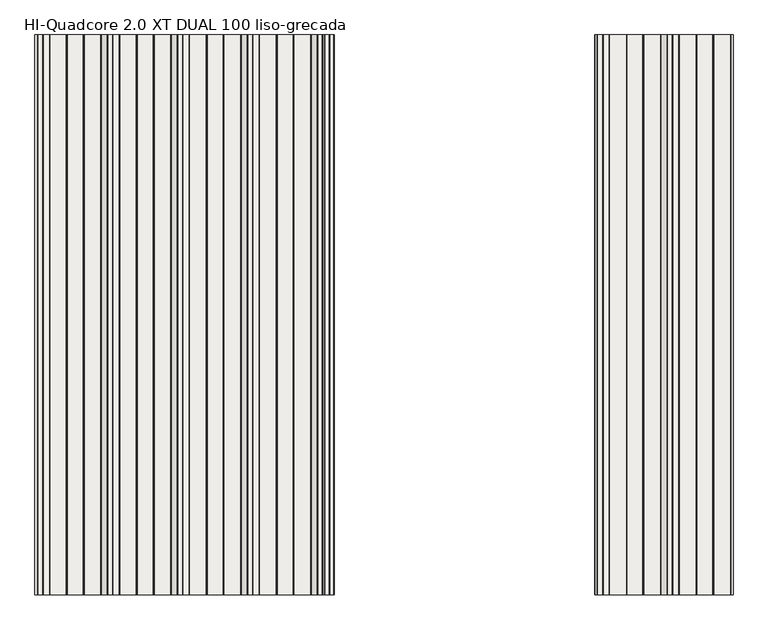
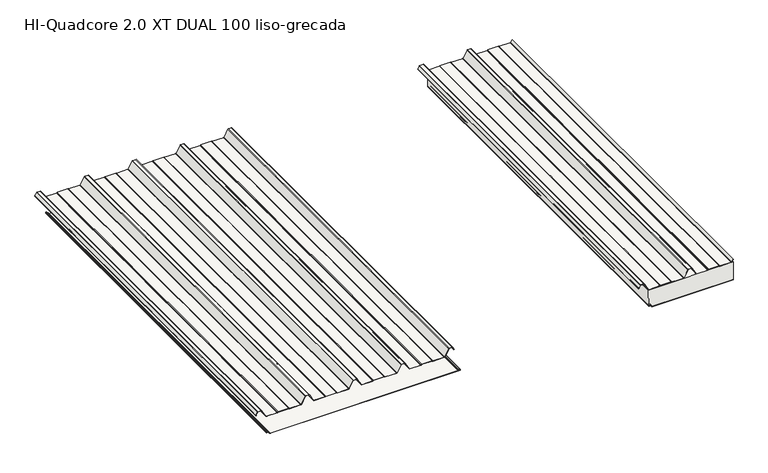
"""IFC4 building model written with IfcOpenShell, lengths in millimetres: slab geometry, HI_QuadCore2.0XT-XT DUAL : HI-Quadcore 2.0 XT DUAL 100 liso-grecada."""

from ifc_helpers import new_model, si_unit, point, frame, frame_2d, origin, place, context, project, spatial, polyline, circle_curve, trimmed, segment, composite_curve, outline, extrude, source, transform, mapped, element, save
from ifc_brep_helpers import plane_surface, cylinder_surface, revolved_surface, advanced_brep


def hi_quadcore_2_0_xt_dual_100_liso_grecada_713d99ed(model_context):
    return source(origin(), model_context, "Body", "SolidModel", [
        extrude(outline(composite_curve([segment(polyline([(138.1649405, 2138.5141429), (123.6579587, 2130.3539656)]), True, "CONTINUOUS"), segment(trimmed(circle_curve(frame_2d((123.0451321, 2131.443435)), 1.25), [point((123.6579587, 2130.3539656))], [point((122.689225, 2132.6416963))], False, "CARTESIAN"), True, "CONTINUOUS"), segment(polyline([(122.689225, 2132.6416963), (125.7359115, 2133.437141), (125.9380053, 2132.663088), (122.9074492, 2131.8718547)]), True, "CONTINUOUS"), segment(trimmed(circle_curve(frame_2d((123.0451321, 2131.443435)), 0.45), [point((122.9074492, 2131.8718547))], [point((123.2657497, 2131.051226))], True, "CARTESIAN"), True, "CONTINUOUS"), segment(polyline([(123.2657497, 2131.051226), (137.7727315, 2139.2114033)]), True, "CONTINUOUS"), segment(trimmed(circle_curve(frame_2d((136.4, 2141.6518148)), 2.8), [point((137.7727315, 2139.2114033))], [point((139.2, 2141.6518148))], True, "CARTESIAN"), True, "CONTINUOUS"), segment(polyline([(139.2, 2141.6518148), (139.2, 2158.9311117)]), True, "CONTINUOUS"), segment(trimmed(circle_curve(frame_2d((136.4, 2158.9311117)), 2.8), [point((139.2, 2158.9311117))], [point((137.5457267, 2161.4859719))], True, "CARTESIAN"), True, "CONTINUOUS"), segment(polyline([(137.5457267, 2161.4859719), (101.2048889, 2181.3052775)]), True, "CONTINUOUS"), segment(trimmed(circle_curve(frame_2d((103.0, 2184.6545425)), 3.8), [point((101.2048889, 2181.3052775))], [point((99.2, 2184.6545425))], False, "CARTESIAN"), True, "CONTINUOUS"), segment(polyline([(99.2, 2184.6545425), (99.2, 2242.4489557)]), True, "CONTINUOUS"), segment(trimmed(circle_curve(frame_2d((103.0, 2242.4489557)), 3.8), [point((99.2, 2242.4489557))], [point((99.6973596, 2244.328468))], False, "CARTESIAN"), True, "CONTINUOUS"), segment(polyline([(99.6973596, 2244.328468), (100.912055, 2246.4629056)]), True, "CONTINUOUS"), segment(trimmed(circle_curve(frame_2d((99.0, 2247.5510443)), 2.2), [point((100.912055, 2246.4629056))], [point((101.2, 2247.5510443))], True, "CARTESIAN"), True, "CONTINUOUS"), segment(polyline([(101.2, 2247.5510443), (101.2, 2302.4489557)]), True, "CONTINUOUS"), segment(trimmed(circle_curve(frame_2d((99.0, 2302.4489557)), 2.2), [point((101.2, 2302.4489557))], [point((100.912055, 2303.5370944))], True, "CARTESIAN"), True, "CONTINUOUS"), segment(polyline([(100.912055, 2303.5370944), (99.6973596, 2305.671532)]), True, "CONTINUOUS"), segment(trimmed(circle_curve(frame_2d((103.0, 2307.5510443)), 3.8), [point((99.6973596, 2305.671532))], [point((99.2, 2307.5510443))], False, "CARTESIAN"), True, "CONTINUOUS"), segment(polyline([(99.2, 2307.5510443), (99.2, 2365.7454575)]), True, "CONTINUOUS"), segment(trimmed(circle_curve(frame_2d((103.0, 2365.7454575)), 3.8), [point((99.2, 2365.7454575))], [point((101.1370073, 2369.0574446))], False, "CARTESIAN"), True, "CONTINUOUS"), segment(polyline([(101.1370073, 2369.0574446), (138.0785747, 2389.8370763)]), True, "CONTINUOUS"), segment(trimmed(circle_curve(frame_2d((137.0, 2391.7545425)), 2.2), [point((138.0785747, 2389.8370763))], [point((139.2, 2391.7545425))], True, "CARTESIAN"), True, "CONTINUOUS"), segment(polyline([(139.2, 2391.7545425), (139.2, 2408.2454575)]), True, "CONTINUOUS"), segment(trimmed(circle_curve(frame_2d((137.0, 2408.2454575)), 2.2), [point((139.2, 2408.2454575))], [point((138.0785747, 2410.1629237))], True, "CARTESIAN"), True, "CONTINUOUS"), segment(polyline([(138.0785747, 2410.1629237), (101.1370073, 2430.9425554)]), True, "CONTINUOUS"), segment(trimmed(circle_curve(frame_2d((103.0, 2434.2545425)), 3.8), [point((101.1370073, 2430.9425554))], [point((99.2, 2434.2545425))], False, "CARTESIAN"), True, "CONTINUOUS"), segment(polyline([(99.2, 2434.2545425), (99.2, 2492.4489557)]), True, "CONTINUOUS"), segment(trimmed(circle_curve(frame_2d((103.0, 2492.4489557)), 3.8), [point((99.2, 2492.4489557))], [point((99.6973596, 2494.328468))], False, "CARTESIAN"), True, "CONTINUOUS"), segment(polyline([(99.6973596, 2494.328468), (100.912055, 2496.4629056)]), True, "CONTINUOUS"), segment(trimmed(circle_curve(frame_2d((99.0, 2497.5510443)), 2.2), [point((100.912055, 2496.4629056))], [point((101.2, 2497.5510443))], True, "CARTESIAN"), True, "CONTINUOUS"), segment(polyline([(101.2, 2497.5510443), (101.2, 2552.4489557)]), True, "CONTINUOUS"), segment(trimmed(circle_curve(frame_2d((99.0, 2552.4489557)), 2.2), [point((101.2, 2552.4489557))], [point((100.912055, 2553.5370944))], True, "CARTESIAN"), True, "CONTINUOUS"), segment(polyline([(100.912055, 2553.5370944), (99.6973596, 2555.671532)]), True, "CONTINUOUS"), segment(trimmed(circle_curve(frame_2d((103.0, 2557.5510443)), 3.8), [point((99.6973596, 2555.671532))], [point((99.2, 2557.5510443))], False, "CARTESIAN"), True, "CONTINUOUS"), segment(polyline([(99.2, 2557.5510443), (99.2, 2615.7454575)]), True, "CONTINUOUS"), segment(trimmed(circle_curve(frame_2d((103.0, 2615.7454575)), 3.8), [point((99.2, 2615.7454575))], [point((101.1370073, 2619.0574446))], False, "CARTESIAN"), True, "CONTINUOUS"), segment(polyline([(101.1370073, 2619.0574446), (111.582282, 2624.9329116), (113.214065, 2624.9329116), (101.5292163, 2618.3601842)]), True, "CONTINUOUS"), segment(trimmed(circle_curve(frame_2d((103.0, 2615.7454575)), 3.0), [point((101.5292163, 2618.3601842))], [point((100.0, 2615.7454575))], True, "CARTESIAN"), True, "CONTINUOUS"), segment(polyline([(100.0, 2615.7454575), (100.0, 2557.5510443)]), True, "CONTINUOUS"), segment(trimmed(circle_curve(frame_2d((103.0, 2557.5510443)), 3.0), [point((100.0, 2557.5510443))], [point((100.3926523, 2556.0672188))], True, "CARTESIAN"), True, "CONTINUOUS"), segment(polyline([(100.3926523, 2556.0672188), (101.6073477, 2553.9327812)]), True, "CONTINUOUS"), segment(trimmed(circle_curve(frame_2d((99.0, 2552.4489557)), 3.0), [point((101.6073477, 2553.9327812))], [point((102.0, 2552.4489557))], False, "CARTESIAN"), True, "CONTINUOUS"), segment(polyline([(102.0, 2552.4489557), (102.0, 2497.5510443)]), True, "CONTINUOUS"), segment(trimmed(circle_curve(frame_2d((99.0, 2497.5510443)), 3.0), [point((102.0, 2497.5510443))], [point((101.6073477, 2496.0672188))], False, "CARTESIAN"), True, "CONTINUOUS"), segment(polyline([(101.6073477, 2496.0672188), (100.3926523, 2493.9327812)]), True, "CONTINUOUS"), segment(trimmed(circle_curve(frame_2d((103.0, 2492.4489557)), 3.0), [point((100.3926523, 2493.9327812))], [point((100.0, 2492.4489557))], True, "CARTESIAN"), True, "CONTINUOUS"), segment(polyline([(100.0, 2492.4489557), (100.0, 2434.2545425)]), True, "CONTINUOUS"), segment(trimmed(circle_curve(frame_2d((103.0, 2434.2545425)), 3.0), [point((100.0, 2434.2545425))], [point((101.5292163, 2431.6398158))], True, "CARTESIAN"), True, "CONTINUOUS"), segment(polyline([(101.5292163, 2431.6398158), (138.4707837, 2410.8601842)]), True, "CONTINUOUS"), segment(trimmed(circle_curve(frame_2d((137.0, 2408.2454575)), 3.0), [point((138.4707837, 2410.8601842))], [point((140.0, 2408.2454575))], False, "CARTESIAN"), True, "CONTINUOUS"), segment(polyline([(140.0, 2408.2454575), (140.0, 2391.7545425)]), True, "CONTINUOUS"), segment(trimmed(circle_curve(frame_2d((137.0, 2391.7545425)), 3.0), [point((140.0, 2391.7545425))], [point((138.4707837, 2389.1398158))], False, "CARTESIAN"), True, "CONTINUOUS"), segment(polyline([(138.4707837, 2389.1398158), (101.5292163, 2368.3601842)]), True, "CONTINUOUS"), segment(trimmed(circle_curve(frame_2d((103.0, 2365.7454575)), 3.0), [point((101.5292163, 2368.3601842))], [point((100.0, 2365.7454575))], True, "CARTESIAN"), True, "CONTINUOUS"), segment(polyline([(100.0, 2365.7454575), (100.0, 2307.5510443)]), True, "CONTINUOUS"), segment(trimmed(circle_curve(frame_2d((103.0, 2307.5510443)), 3.0), [point((100.0, 2307.5510443))], [point((100.3926523, 2306.0672188))], True, "CARTESIAN"), True, "CONTINUOUS"), segment(polyline([(100.3926523, 2306.0672188), (101.6073477, 2303.9327812)]), True, "CONTINUOUS"), segment(trimmed(circle_curve(frame_2d((99.0, 2302.4489557)), 3.0), [point((101.6073477, 2303.9327812))], [point((102.0, 2302.4489557))], False, "CARTESIAN"), True, "CONTINUOUS"), segment(polyline([(102.0, 2302.4489557), (102.0, 2247.5510443)]), True, "CONTINUOUS"), segment(trimmed(circle_curve(frame_2d((99.0, 2247.5510443)), 3.0), [point((102.0, 2247.5510443))], [point((101.6073477, 2246.0672188))], False, "CARTESIAN"), True, "CONTINUOUS"), segment(polyline([(101.6073477, 2246.0672188), (100.3926523, 2243.9327812)]), True, "CONTINUOUS"), segment(trimmed(circle_curve(frame_2d((103.0, 2242.4489557)), 3.0), [point((100.3926523, 2243.9327812))], [point((100.0, 2242.4489557))], True, "CARTESIAN"), True, "CONTINUOUS"), segment(polyline([(100.0, 2242.4489557), (100.0, 2184.6545425)]), True, "CONTINUOUS"), segment(trimmed(circle_curve(frame_2d((103.0, 2184.6545425)), 3.0), [point((100.0, 2184.6545425))], [point((101.5852209, 2182.0090935))], True, "CARTESIAN"), True, "CONTINUOUS"), segment(polyline([(101.5852209, 2182.0090935), (137.9031732, 2162.2022691)]), True, "CONTINUOUS"), segment(trimmed(circle_curve(frame_2d((136.4, 2158.9311117)), 3.6), [point((137.9031732, 2162.2022691))], [point((140.0, 2158.9311117))], False, "CARTESIAN"), True, "CONTINUOUS"), segment(polyline([(140.0, 2158.9311117), (140.0, 2141.6518148)]), True, "CONTINUOUS"), segment(trimmed(circle_curve(frame_2d((136.4, 2141.6518148)), 3.6), [point((140.0, 2141.6518148))], [point((138.1649405, 2138.5141429))], False, "CARTESIAN"), True, "CONTINUOUS")], self_intersect=False)), frame((0.0, 0.0, 0.0), z_axis=(0.0, 1.0, 0.0), x_axis=(0.0, 0.0, 1.0)), (0.0, 0.0, 1.0), 2000.0),
        extrude(outline(composite_curve([segment(trimmed(circle_curve(frame_2d((11.9759207, 2187.8456418)), 2.0), [point((13.390095, 2186.4313891))], [point((11.9758652, 2185.8456418))], False, "CARTESIAN"), True, "CONTINUOUS"), segment(polyline([(11.9758652, 2185.8456418), (8.333684, 2185.8457428)]), True, "CONTINUOUS"), segment(trimmed(circle_curve(frame_2d((8.3337394, 2187.8457428)), 2.0), [point((8.333684, 2185.8457428))], [point((6.3390802, 2187.6996787))], False, "CARTESIAN"), True, "CONTINUOUS"), segment(polyline([(6.3390802, 2187.6996787), (5.5769243, 2198.1077232)]), True, "CONTINUOUS"), segment(trimmed(circle_curve(frame_2d((3.5874027, 2197.9032632)), 2.0), [point((5.5769243, 2198.1077232))], [point((3.5874582, 2199.9032632))], True, "CARTESIAN"), True, "CONTINUOUS"), segment(polyline([(3.5874582, 2199.9032632), (1.9861383, 2199.9033076)]), True, "CONTINUOUS"), segment(trimmed(circle_curve(frame_2d((1.9861938, 2201.9033076)), 2.0), [point((1.9861383, 2199.9033076))], [point((-0.0138062, 2201.903363))], False, "CARTESIAN"), True, "CONTINUOUS"), segment(polyline([(-0.0138062, 2201.903363), (-0.0020786, 2624.9329116), (0.7979214, 2624.9329116), (0.7861938, 2201.9033408)]), True, "CONTINUOUS"), segment(trimmed(circle_curve(frame_2d((1.9861938, 2201.9033076)), 1.2), [point((0.7861938, 2201.9033408))], [point((1.9861605, 2200.7033076))], True, "CARTESIAN"), True, "CONTINUOUS"), segment(polyline([(1.9861605, 2200.7033076), (3.5874804, 2200.7032632)]), True, "CONTINUOUS"), segment(trimmed(circle_curve(frame_2d((3.5874027, 2197.9032632)), 2.8), [point((3.5874804, 2200.7032632))], [point((6.3740035, 2198.1768616))], False, "CARTESIAN"), True, "CONTINUOUS"), segment(polyline([(6.3740035, 2198.1768616), (7.1369439, 2187.7581044)]), True, "CONTINUOUS"), segment(trimmed(circle_curve(frame_2d((8.3337394, 2187.8457428)), 1.2), [point((7.1369439, 2187.7581044))], [point((8.3337062, 2186.6457428))], True, "CARTESIAN"), True, "CONTINUOUS"), segment(polyline([(8.3337062, 2186.6457428), (11.9758874, 2186.6456418)]), True, "CONTINUOUS"), segment(trimmed(circle_curve(frame_2d((11.9759207, 2187.8456418)), 1.2), [point((11.9758874, 2186.6456418))], [point((12.8244253, 2186.9970902))], True, "CARTESIAN"), True, "CONTINUOUS"), segment(polyline([(12.8244253, 2186.9970902), (14.9306702, 2189.1032183), (15.4963556, 2188.5375329), (13.390095, 2186.4313891)]), True, "CONTINUOUS")], self_intersect=False)), frame((0.0, 0.0, 0.0), z_axis=(0.0, 1.0, 0.0), x_axis=(0.0, 0.0, 1.0)), (0.0, 0.0, 1.0), 2000.0),
        extrude(outline(composite_curve([segment(polyline([(14.9306702, 2189.1032183), (12.8244253, 2186.9970902)]), True, "CONTINUOUS"), segment(trimmed(circle_curve(frame_2d((11.9759207, 2187.8456418)), 1.2), [point((12.8244253, 2186.9970902))], [point((11.9758874, 2186.6456418))], False, "CARTESIAN"), True, "CONTINUOUS"), segment(polyline([(11.9758874, 2186.6456418), (8.3337062, 2186.6457428)]), True, "CONTINUOUS"), segment(trimmed(circle_curve(frame_2d((8.3337394, 2187.8457428)), 1.2), [point((8.3337062, 2186.6457428))], [point((7.1369439, 2187.7581044))], False, "CARTESIAN"), True, "CONTINUOUS"), segment(polyline([(7.1369439, 2187.7581044), (6.3740035, 2198.1768616)]), True, "CONTINUOUS"), segment(trimmed(circle_curve(frame_2d((3.5874027, 2197.9032632)), 2.8), [point((6.3740035, 2198.1768616))], [point((3.5874804, 2200.7032632))], True, "CARTESIAN"), True, "CONTINUOUS"), segment(polyline([(3.5874804, 2200.7032632), (1.9861605, 2200.7033076)]), True, "CONTINUOUS"), segment(trimmed(circle_curve(frame_2d((1.9861938, 2201.9033076)), 1.2), [point((1.9861605, 2200.7033076))], [point((0.7861938, 2201.9033408))], False, "CARTESIAN"), True, "CONTINUOUS"), segment(polyline([(0.7861938, 2201.9033408), (0.7979214, 2624.9329116), (98.0, 2624.9329116), (98.0, 2181.4127132), (7.0308356, 2184.4622222), (7.2414508, 2185.8457731), (11.9758652, 2185.8456418)]), True, "CONTINUOUS"), segment(trimmed(circle_curve(frame_2d((11.9759207, 2187.8456418)), 2.0), [point((11.9758652, 2185.8456418))], [point((13.390095, 2186.4313891))], True, "CARTESIAN"), True, "CONTINUOUS"), segment(polyline([(13.390095, 2186.4313891), (15.4963556, 2188.5375329), (14.9306702, 2189.1032183)]), True, "CONTINUOUS")], self_intersect=False)), frame((0.0, 0.0, 0.0), z_axis=(0.0, 1.0, 0.0), x_axis=(0.0, 0.0, 1.0)), (0.0, 0.0, 1.0), 2000.0),
        advanced_brep(
        [(186.4313891, 0.0, 13.3795578), (185.8456418, 0.0, 11.9654043), (185.8456037, 0.0, 8.2995811), (187.6996787, 0.0, 6.328543), (198.1077232, 0.0, 5.5663871), (199.9032632, 0.0, 3.5769209), (199.9033076, 0.0, 1.9756011), (201.903363, 0.0, -0.0243435), (1197.9162803, 0.0, 0.003269), (1199.9046779, 0.0, 2.0032908), (1199.904653, 0.0, 2.9012893), (1198.0077486, 0.0, 4.8985749), (1186.1928118, 0.0, 5.7933732), (1184.3438482, 0.0, 7.7876066), (1184.3437386, 0.0, 11.7402379), (1183.757913, 0.0, 13.1544352), (1182.3436602, 0.0, 14.5686095), (1181.7779748, 0.0, 14.0029241), (1183.1922433, 0.0, 12.5887341), (1183.5437386, 0.0, 11.7402157), (1183.5438482, 0.0, 7.7875844), (1186.1323972, 0.0, 4.9956577), (1197.958132, 0.0, 4.1000416), (1199.104653, 0.0, 2.9012672), (1199.1046779, 0.0, 2.0032686), (1197.9136554, 0.0, 0.8032689), (201.9033408, 0.0, 0.7756565), (200.7033076, 0.0, 1.9756233), (200.7032632, 0.0, 3.5769431), (198.1768616, 0.0, 6.3634663), (187.7581044, 0.0, 7.1264067), (186.6457428, 0.0, 8.3231689), (186.6456418, 0.0, 11.965396), (186.9970902, 0.0, 12.8138881), (189.1032183, 0.0, 14.920133), (188.5375329, 0.0, 15.4858184), (186.4313891, 2000.0, 13.3795578), (188.5375329, 2000.0, 15.4858184), (189.1032183, 2000.0, 14.920133), (186.9970902, 2000.0, 12.8138881), (186.6456418, 2000.0, 11.965396), (186.6456037, 2000.0, 8.2995728), (187.7581044, 2000.0, 7.1264067), (198.1768616, 2000.0, 6.3634663), (200.7032632, 2000.0, 3.5769431), (200.7033076, 2000.0, 1.9756233), (201.9033408, 2000.0, 0.7756565), (1197.9136554, 2000.0, 0.8032689), (1199.1046779, 2000.0, 2.0032686), (1199.104653, 2000.0, 2.9012672), (1197.958132, 2000.0, 4.1000416), (1186.1323972, 2000.0, 4.9956577), (1183.5438482, 2000.0, 7.7875844), (1183.5437386, 2000.0, 11.7402157), (1183.1922433, 2000.0, 12.5887341), (1181.7779748, 2000.0, 14.0029241), (1182.3436602, 2000.0, 14.5686095), (1183.757913, 2000.0, 13.1544352), (1184.3437386, 2000.0, 11.7402379), (1184.3438482, 2000.0, 7.7876066), (1186.1928118, 2000.0, 5.7933732), (1198.0077486, 2000.0, 4.8985749), (1199.904653, 2000.0, 2.9012893), (1199.9046779, 2000.0, 2.0032908), (1197.9162803, 2000.0, 0.003269), (201.903363, 2000.0, -0.0243435), (199.9033076, 2000.0, 1.9756011), (199.9032632, 2000.0, 3.5769209), (198.1077232, 2000.0, 5.5663871), (187.6996787, 2000.0, 6.328543), (185.8457428, 2000.0, 8.3231467), (185.8456418, 2000.0, 11.9654043)],
        [
            (0, 1, circle_curve(frame((187.8456418, 0.0, 11.9653834), z_axis=(0.0, -1.0, 0.0), x_axis=(1.0, 0.0, 0.0)), 2.0)),
            (1, 2),
            (2, 3, circle_curve(frame((187.8457428, 0.0, 8.3232022), z_axis=(0.0, -1.0, 0.0), x_axis=(1.0, 0.0, 0.0)), 2.0)),
            (3, 4),
            (4, 5, circle_curve(frame((197.9032632, 0.0, 3.5768655), z_axis=(0.0, 1.0, 0.0), x_axis=(1.0, 0.0, 0.0)), 2.0)),
            (5, 6),
            (6, 7, circle_curve(frame((201.9033076, 0.0, 1.9756565), z_axis=(0.0, -1.0, 0.0), x_axis=(1.0, 0.0, 0.0)), 2.0)),
            (7, 8),
            (8, 9, circle_curve(frame((1197.9046779, 0.0, 2.0032353), z_axis=(0.0, -1.0, 0.0), x_axis=(1.0, 0.0, 0.0)), 2.0)),
            (9, 10),
            (10, 11, circle_curve(frame((1197.904653, 0.0, 2.9012339), z_axis=(0.0, -1.0, 0.0), x_axis=(1.0, 0.0, 0.0)), 2.0)),
            (11, 12),
            (12, 13, circle_curve(frame((1186.3438482, 0.0, 7.7876621), z_axis=(0.0, 1.0, 0.0), x_axis=(1.0, 0.0, 0.0)), 2.0)),
            (13, 14),
            (14, 15, circle_curve(frame((1182.3437386, 0.0, 11.7401824), z_axis=(0.0, -1.0, 0.0), x_axis=(1.0, 0.0, 0.0)), 2.0)),
            (15, 16),
            (16, 17),
            (17, 18),
            (18, 19, circle_curve(frame((1182.3437386, 0.0, 11.7401824), z_axis=(0.0, 1.0, 0.0), x_axis=(1.0, 0.0, 0.0)), 1.2)),
            (19, 20),
            (20, 21, circle_curve(frame((1186.3438482, 0.0, 7.7876621), z_axis=(0.0, -1.0, 0.0), x_axis=(1.0, 0.0, 0.0)), 2.8)),
            (21, 22),
            (22, 23, circle_curve(frame((1197.904653, 0.0, 2.9012339), z_axis=(0.0, 1.0, 0.0), x_axis=(1.0, 0.0, 0.0)), 1.2)),
            (23, 24),
            (24, 25, circle_curve(frame((1197.9046779, 0.0, 2.0032353), z_axis=(0.0, 1.0, 0.0), x_axis=(1.0, 0.0, 0.0)), 1.2)),
            (25, 26),
            (26, 27, circle_curve(frame((201.9033076, 0.0, 1.9756565), z_axis=(0.0, 1.0, 0.0), x_axis=(1.0, 0.0, 0.0)), 1.2)),
            (27, 28),
            (28, 29, circle_curve(frame((197.9032632, 0.0, 3.5768655), z_axis=(0.0, -1.0, 0.0), x_axis=(1.0, 0.0, 0.0)), 2.8)),
            (29, 30),
            (30, 31, circle_curve(frame((187.8457428, 0.0, 8.3232022), z_axis=(0.0, 1.0, 0.0), x_axis=(1.0, 0.0, 0.0)), 1.2)),
            (31, 32),
            (32, 33, circle_curve(frame((187.8456418, 0.0, 11.9653834), z_axis=(0.0, 1.0, 0.0), x_axis=(1.0, 0.0, 0.0)), 1.2)),
            (33, 34),
            (34, 35),
            (35, 0),
            (36, 37),
            (37, 38),
            (38, 39),
            (39, 40, circle_curve(frame((187.8456418, 2000.0, 11.9653834), z_axis=(0.0, -1.0, 0.0), x_axis=(1.0, 0.0, 0.0)), 1.2)),
            (40, 41),
            (41, 42, circle_curve(frame((187.8457428, 2000.0, 8.3232022), z_axis=(0.0, -1.0, 0.0), x_axis=(1.0, 0.0, 0.0)), 1.2)),
            (42, 43),
            (43, 44, circle_curve(frame((197.9032632, 2000.0, 3.5768655), z_axis=(0.0, 1.0, 0.0), x_axis=(1.0, 0.0, 0.0)), 2.8)),
            (44, 45),
            (45, 46, circle_curve(frame((201.9033076, 2000.0, 1.9756565), z_axis=(0.0, -1.0, 0.0), x_axis=(1.0, 0.0, 0.0)), 1.2)),
            (46, 47),
            (47, 48, circle_curve(frame((1197.9046779, 2000.0, 2.0032353), z_axis=(0.0, -1.0, 0.0), x_axis=(1.0, 0.0, 0.0)), 1.2)),
            (48, 49),
            (49, 50, circle_curve(frame((1197.904653, 2000.0, 2.9012339), z_axis=(0.0, -1.0, 0.0), x_axis=(1.0, 0.0, 0.0)), 1.2)),
            (50, 51),
            (51, 52, circle_curve(frame((1186.3438482, 2000.0, 7.7876621), z_axis=(0.0, 1.0, 0.0), x_axis=(1.0, 0.0, 0.0)), 2.8)),
            (52, 53),
            (53, 54, circle_curve(frame((1182.3437386, 2000.0, 11.7401824), z_axis=(0.0, -1.0, 0.0), x_axis=(1.0, 0.0, 0.0)), 1.2)),
            (54, 55),
            (55, 56),
            (56, 57),
            (57, 58, circle_curve(frame((1182.3437386, 2000.0, 11.7401824), z_axis=(0.0, 1.0, 0.0), x_axis=(1.0, 0.0, 0.0)), 2.0)),
            (58, 59),
            (59, 60, circle_curve(frame((1186.3438482, 2000.0, 7.7876621), z_axis=(0.0, -1.0, 0.0), x_axis=(1.0, 0.0, 0.0)), 2.0)),
            (60, 61),
            (61, 62, circle_curve(frame((1197.904653, 2000.0, 2.9012339), z_axis=(0.0, 1.0, 0.0), x_axis=(1.0, 0.0, 0.0)), 2.0)),
            (62, 63),
            (63, 64, circle_curve(frame((1197.9046779, 2000.0, 2.0032353), z_axis=(0.0, 1.0, 0.0), x_axis=(1.0, 0.0, 0.0)), 2.0)),
            (64, 65),
            (65, 66, circle_curve(frame((201.9033076, 2000.0, 1.9756565), z_axis=(0.0, 1.0, 0.0), x_axis=(1.0, 0.0, 0.0)), 2.0)),
            (66, 67),
            (67, 68, circle_curve(frame((197.9032632, 2000.0, 3.5768655), z_axis=(0.0, -1.0, 0.0), x_axis=(1.0, 0.0, 0.0)), 2.0)),
            (68, 69),
            (69, 70, circle_curve(frame((187.8457428, 2000.0, 8.3232022), z_axis=(0.0, 1.0, 0.0), x_axis=(1.0, 0.0, 0.0)), 2.0)),
            (70, 71),
            (71, 36, circle_curve(frame((187.8456418, 2000.0, 11.9653834), z_axis=(0.0, 1.0, 0.0), x_axis=(1.0, 0.0, 0.0)), 2.0)),
            (0, 36),
            (71, 1),
            (70, 2),
            (69, 3),
            (68, 4),
            (67, 5),
            (66, 6),
            (65, 7),
            (64, 8),
            (63, 9),
            (62, 10),
            (61, 11),
            (60, 12),
            (59, 13),
            (58, 14),
            (57, 15),
            (56, 16),
            (55, 17),
            (54, 18),
            (53, 19),
            (52, 20),
            (51, 21),
            (50, 22),
            (49, 23),
            (48, 24),
            (47, 25),
            (46, 26),
            (45, 27),
            (44, 28),
            (43, 29),
            (42, 30),
            (41, 31),
            (40, 32),
            (39, 33),
            (38, 34),
            (37, 35),
        ],
        [
            plane_surface(frame((189.8456418, 0.0, 11.9653834), z_axis=(0.0, -1.0, 0.0), x_axis=(0.0, 0.0, 1.0))),
            plane_surface(frame((189.8456418, 2000.0, 11.9653834), z_axis=(0.0, 1.0, 0.0), x_axis=(0.0, 0.0, -1.0))),
            cylinder_surface(frame((187.8456418, 2000.0, 11.9653834), z_axis=(0.0, -1.0, 0.0), x_axis=(1.0, 0.0, 0.0)), 2.0),
            plane_surface(frame((185.8456418, 0.0, 11.9654043), z_axis=(-0.9999999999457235, 0.0, 1.041887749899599e-05), x_axis=(0.0, 1.0, 0.0))),
            cylinder_surface(frame((187.8457428, 2000.0, 8.3232022), z_axis=(0.0, -1.0, 0.0), x_axis=(1.0, 0.0, 0.0)), 2.0),
            plane_surface(frame((187.6996787, 0.0, 6.328543), z_axis=(-0.07303203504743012, 0.0, -0.9973295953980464), x_axis=(0.0, 1.0, 0.0))),
            revolved_surface(polyline([(199.9032632, 2000.0, 3.5768655), (199.9032632, 0.0, 3.5768655)]), (197.9032632, 2000.0, 3.5768655), (0.0, 1.0, 0.0)),
            plane_surface(frame((199.9032632, 0.0, 3.5769209), z_axis=(-0.9999999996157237, 0.0, -2.7722781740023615e-05), x_axis=(0.0, 1.0, 0.0))),
            cylinder_surface(frame((201.9033076, 2000.0, 1.9756565), z_axis=(0.0, -1.0, 0.0), x_axis=(1.0, 0.0, 0.0)), 2.0),
            plane_surface(frame((201.903363, 0.0, -0.0243435), z_axis=(2.772298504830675e-05, 0.0, -0.9999999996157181), x_axis=(0.0, 1.0, 0.0))),
            cylinder_surface(frame((1197.9046779, 2000.0, 2.0032353), z_axis=(0.0, -1.0, 0.0), x_axis=(1.0, 0.0, 0.0)), 2.0),
            plane_surface(frame((1199.9046779, 0.0, 2.0032908), z_axis=(0.9999999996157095, 0.0, 2.7723295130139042e-05), x_axis=(0.0, 1.0, 0.0))),
            cylinder_surface(frame((1197.904653, 2000.0, 2.9012339), z_axis=(0.0, -1.0, 0.0), x_axis=(1.0, 0.0, 0.0)), 2.0),
            plane_surface(frame((1198.0077486, 0.0, 4.8985749), z_axis=(0.07551822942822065, 0.0, 0.9971444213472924), x_axis=(0.0, 1.0, 0.0))),
            revolved_surface(polyline([(1188.3438482, 2000.0, 7.7876621), (1188.3438482, 0.0, 7.7876621)]), (1186.3438482, 2000.0, 7.7876621), (0.0, 1.0, 0.0)),
            plane_surface(frame((1184.3438482, 0.0, 7.7876066), z_axis=(0.9999999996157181, 0.0, 2.7722984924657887e-05), x_axis=(0.0, 1.0, 0.0))),
            cylinder_surface(frame((1182.3437386, 2000.0, 11.7401824), z_axis=(0.0, -1.0, 0.0), x_axis=(1.0, 0.0, 0.0)), 2.0),
            plane_surface(frame((1183.757913, 0.0, 13.1544352), z_axis=(0.7070871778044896, 0.0, 0.7071263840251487), x_axis=(0.0, 1.0, 0.0))),
            plane_surface(frame((1182.3436602, 0.0, 14.5686095), z_axis=(-0.7071067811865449, 0.0, 0.7071067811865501), x_axis=(0.0, 1.0, 0.0))),
            plane_surface(frame((1181.7779748, 0.0, 14.0029241), z_axis=(-0.7070871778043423, 0.0, -0.707126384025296), x_axis=(0.0, 1.0, 0.0))),
            revolved_surface(polyline([(1183.5437386, 2000.0, 11.7401824), (1183.5437386, 0.0, 11.7401824)]), (1182.3437386, 2000.0, 11.7401824), (0.0, 1.0, 0.0)),
            plane_surface(frame((1183.5437386, 0.0, 11.7402157), z_axis=(-0.9999999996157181, 0.0, -2.7722985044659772e-05), x_axis=(0.0, 1.0, 0.0))),
            cylinder_surface(frame((1186.3438482, 2000.0, 7.7876621), z_axis=(0.0, -1.0, 0.0), x_axis=(1.0, 0.0, 0.0)), 2.8),
            plane_surface(frame((1186.1323972, 0.0, 4.9956577), z_axis=(-0.07551822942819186, 0.0, -0.9971444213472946), x_axis=(0.0, 1.0, 0.0))),
            revolved_surface(polyline([(1199.104653, 2000.0, 2.9012339), (1199.104653, 0.0, 2.9012339)]), (1197.904653, 2000.0, 2.9012339), (0.0, 1.0, 0.0)),
            plane_surface(frame((1199.104653, 0.0, 2.9012672), z_axis=(-0.9999999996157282, 0.0, -2.7722622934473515e-05), x_axis=(0.0, 1.0, 0.0))),
            revolved_surface(polyline([(1199.1046779, 2000.0, 2.0032353), (1199.1046779, 0.0, 2.0032353)]), (1197.9046779, 2000.0, 2.0032353), (0.0, 1.0, 0.0)),
            plane_surface(frame((1197.9136554, 0.0, 0.8032689), z_axis=(-2.7722985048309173e-05, 0.0, 0.9999999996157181), x_axis=(0.0, 1.0, 0.0))),
            revolved_surface(polyline([(203.1033076, 2000.0, 1.9756565), (203.1033076, 0.0, 1.9756565)]), (201.9033076, 2000.0, 1.9756565), (0.0, 1.0, 0.0)),
            plane_surface(frame((200.7033076, 0.0, 1.9756233), z_axis=(0.9999999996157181, 0.0, 2.7722983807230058e-05), x_axis=(0.0, 1.0, 0.0))),
            cylinder_surface(frame((197.9032632, 2000.0, 3.5768655), z_axis=(0.0, -1.0, 0.0), x_axis=(1.0, 0.0, 0.0)), 2.8),
            plane_surface(frame((198.1768616, 0.0, 6.3634663), z_axis=(0.0730320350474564, 0.0, 0.9973295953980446), x_axis=(0.0, 1.0, 0.0))),
            revolved_surface(polyline([(189.0457428, 2000.0, 8.3232022), (189.0457428, 0.0, 8.3232022)]), (187.8457428, 2000.0, 8.3232022), (0.0, 1.0, 0.0)),
            plane_surface(frame((186.6456037, 0.0, 8.2995728), z_axis=(0.9999999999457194, 0.0, -1.0419274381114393e-05), x_axis=(0.0, 1.0, 0.0))),
            revolved_surface(polyline([(189.0456418, 2000.0, 11.9653834), (189.0456418, 0.0, 11.9653834)]), (187.8456418, 2000.0, 11.9653834), (0.0, 1.0, 0.0)),
            plane_surface(frame((186.9970902, 0.0, 12.8138881), z_axis=(0.7071263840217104, 0.0, -0.7070871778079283), x_axis=(0.0, 1.0, 0.0))),
            plane_surface(frame((189.1032183, 0.0, 14.920133), z_axis=(0.7071067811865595, 0.0, 0.7071067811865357), x_axis=(0.0, 1.0, 0.0))),
            plane_surface(frame((188.5375329, 0.0, 15.4858184), z_axis=(-0.7071263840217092, 0.0, 0.7070871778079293), x_axis=(0.0, 1.0, 0.0))),
        ],
        [
            (0, [[1, 2, 3, 4, 5, 6, 7, 8, 9, 10, 11, 12, 13, 14, 15, 16, 17, 18, 19, 20, 21, 22, 23, 24, 25, 26, 27, 28, 29, 30, 31, 32, 33, 34, 35, 36]]),
            (1, [[37, 38, 39, 40, 41, 42, 43, 44, 45, 46, 47, 48, 49, 50, 51, 52, 53, 54, 55, 56, 57, 58, 59, 60, 61, 62, 63, 64, 65, 66, 67, 68, 69, 70, 71, 72]]),
            (2, [[-1, 73, -72, 74]]),
            (3, [[-2, -74, -71, 75]]),
            (4, [[-3, -75, -70, 76]]),
            (5, [[-4, -76, -69, 77]]),
            (6, [[-5, -77, -68, 78]]),
            (7, [[-6, -78, -67, 79]]),
            (8, [[-7, -79, -66, 80]]),
            (9, [[-8, -80, -65, 81]]),
            (10, [[-9, -81, -64, 82]]),
            (11, [[-10, -82, -63, 83]]),
            (12, [[-11, -83, -62, 84]]),
            (13, [[-12, -84, -61, 85]]),
            (14, [[-13, -85, -60, 86]]),
            (15, [[-14, -86, -59, 87]]),
            (16, [[-15, -87, -58, 88]]),
            (17, [[-16, -88, -57, 89]]),
            (18, [[-17, -89, -56, 90]]),
            (19, [[-18, -90, -55, 91]]),
            (20, [[-19, -91, -54, 92]]),
            (21, [[-20, -92, -53, 93]]),
            (22, [[-21, -93, -52, 94]]),
            (23, [[-22, -94, -51, 95]]),
            (24, [[-23, -95, -50, 96]]),
            (25, [[-24, -96, -49, 97]]),
            (26, [[-25, -97, -48, 98]]),
            (27, [[-26, -98, -47, 99]]),
            (28, [[-27, -99, -46, 100]]),
            (29, [[-28, -100, -45, 101]]),
            (30, [[-29, -101, -44, 102]]),
            (31, [[-30, -102, -43, 103]]),
            (32, [[-31, -103, -42, 104]]),
            (33, [[-32, -104, -41, 105]]),
            (34, [[-33, -105, -40, 106]]),
            (35, [[-34, -106, -39, 107]]),
            (36, [[-35, -107, -38, 108]]),
            (37, [[-36, -108, -37, -73]]),
        ],
    ),
        extrude(outline(composite_curve([segment(polyline([(138.1649405, 138.5141429), (123.6579587, 130.3539656)]), True, "CONTINUOUS"), segment(trimmed(circle_curve(frame_2d((123.0451321, 131.443435)), 1.25), [point((123.6579587, 130.3539656))], [point((122.689225, 132.6416963))], False, "CARTESIAN"), True, "CONTINUOUS"), segment(polyline([(122.689225, 132.6416963), (125.7359115, 133.437141), (125.9380053, 132.663088), (122.9074492, 131.8718547)]), True, "CONTINUOUS"), segment(trimmed(circle_curve(frame_2d((123.0451321, 131.443435)), 0.45), [point((122.9074492, 131.8718547))], [point((123.2657497, 131.051226))], True, "CARTESIAN"), True, "CONTINUOUS"), segment(polyline([(123.2657497, 131.051226), (137.7727315, 139.2114033)]), True, "CONTINUOUS"), segment(trimmed(circle_curve(frame_2d((136.4, 141.6518148)), 2.8), [point((137.7727315, 139.2114033))], [point((139.2, 141.6518148))], True, "CARTESIAN"), True, "CONTINUOUS"), segment(polyline([(139.2, 141.6518148), (139.2, 158.9311117)]), True, "CONTINUOUS"), segment(trimmed(circle_curve(frame_2d((136.4, 158.9311117)), 2.8), [point((139.2, 158.9311117))], [point((137.5457267, 161.4859719))], True, "CARTESIAN"), True, "CONTINUOUS"), segment(polyline([(137.5457267, 161.4859719), (101.2048889, 181.3052775)]), True, "CONTINUOUS"), segment(trimmed(circle_curve(frame_2d((103.0, 184.6545425)), 3.8), [point((101.2048889, 181.3052775))], [point((99.2, 184.6545425))], False, "CARTESIAN"), True, "CONTINUOUS"), segment(polyline([(99.2, 184.6545425), (99.2, 242.4489557)]), True, "CONTINUOUS"), segment(trimmed(circle_curve(frame_2d((103.0, 242.4489557)), 3.8), [point((99.2, 242.4489557))], [point((99.6973596, 244.328468))], False, "CARTESIAN"), True, "CONTINUOUS"), segment(polyline([(99.6973596, 244.328468), (100.912055, 246.4629056)]), True, "CONTINUOUS"), segment(trimmed(circle_curve(frame_2d((99.0, 247.5510443)), 2.2), [point((100.912055, 246.4629056))], [point((101.2, 247.5510443))], True, "CARTESIAN"), True, "CONTINUOUS"), segment(polyline([(101.2, 247.5510443), (101.2, 302.4489557)]), True, "CONTINUOUS"), segment(trimmed(circle_curve(frame_2d((99.0, 302.4489557)), 2.2), [point((101.2, 302.4489557))], [point((100.912055, 303.5370944))], True, "CARTESIAN"), True, "CONTINUOUS"), segment(polyline([(100.912055, 303.5370944), (99.6973596, 305.671532)]), True, "CONTINUOUS"), segment(trimmed(circle_curve(frame_2d((103.0, 307.5510443)), 3.8), [point((99.6973596, 305.671532))], [point((99.2, 307.5510443))], False, "CARTESIAN"), True, "CONTINUOUS"), segment(polyline([(99.2, 307.5510443), (99.2, 365.7454575)]), True, "CONTINUOUS"), segment(trimmed(circle_curve(frame_2d((103.0, 365.7454575)), 3.8), [point((99.2, 365.7454575))], [point((101.1370073, 369.0574446))], False, "CARTESIAN"), True, "CONTINUOUS"), segment(polyline([(101.1370073, 369.0574446), (138.0785747, 389.8370763)]), True, "CONTINUOUS"), segment(trimmed(circle_curve(frame_2d((137.0, 391.7545425)), 2.2), [point((138.0785747, 389.8370763))], [point((139.2, 391.7545425))], True, "CARTESIAN"), True, "CONTINUOUS"), segment(polyline([(139.2, 391.7545425), (139.2, 408.2454575)]), True, "CONTINUOUS"), segment(trimmed(circle_curve(frame_2d((137.0, 408.2454575)), 2.2), [point((139.2, 408.2454575))], [point((138.0785747, 410.1629237))], True, "CARTESIAN"), True, "CONTINUOUS"), segment(polyline([(138.0785747, 410.1629237), (101.1370073, 430.9425554)]), True, "CONTINUOUS"), segment(trimmed(circle_curve(frame_2d((103.0, 434.2545425)), 3.8), [point((101.1370073, 430.9425554))], [point((99.2, 434.2545425))], False, "CARTESIAN"), True, "CONTINUOUS"), segment(polyline([(99.2, 434.2545425), (99.2, 492.4489557)]), True, "CONTINUOUS"), segment(trimmed(circle_curve(frame_2d((103.0, 492.4489557)), 3.8), [point((99.2, 492.4489557))], [point((99.6973596, 494.328468))], False, "CARTESIAN"), True, "CONTINUOUS"), segment(polyline([(99.6973596, 494.328468), (100.912055, 496.4629056)]), True, "CONTINUOUS"), segment(trimmed(circle_curve(frame_2d((99.0, 497.5510443)), 2.2), [point((100.912055, 496.4629056))], [point((101.2, 497.5510443))], True, "CARTESIAN"), True, "CONTINUOUS"), segment(polyline([(101.2, 497.5510443), (101.2, 552.4489557)]), True, "CONTINUOUS"), segment(trimmed(circle_curve(frame_2d((99.0, 552.4489557)), 2.2), [point((101.2, 552.4489557))], [point((100.912055, 553.5370944))], True, "CARTESIAN"), True, "CONTINUOUS"), segment(polyline([(100.912055, 553.5370944), (99.6973596, 555.671532)]), True, "CONTINUOUS"), segment(trimmed(circle_curve(frame_2d((103.0, 557.5510443)), 3.8), [point((99.6973596, 555.671532))], [point((99.2, 557.5510443))], False, "CARTESIAN"), True, "CONTINUOUS"), segment(polyline([(99.2, 557.5510443), (99.2, 615.7454575)]), True, "CONTINUOUS"), segment(trimmed(circle_curve(frame_2d((103.0, 615.7454575)), 3.8), [point((99.2, 615.7454575))], [point((101.1370073, 619.0574446))], False, "CARTESIAN"), True, "CONTINUOUS"), segment(polyline([(101.1370073, 619.0574446), (138.0785747, 639.8370763)]), True, "CONTINUOUS"), segment(trimmed(circle_curve(frame_2d((137.0, 641.7545425)), 2.2), [point((138.0785747, 639.8370763))], [point((139.2, 641.7545425))], True, "CARTESIAN"), True, "CONTINUOUS"), segment(polyline([(139.2, 641.7545425), (139.2, 658.2454575)]), True, "CONTINUOUS"), segment(trimmed(circle_curve(frame_2d((137.0, 658.2454575)), 2.2), [point((139.2, 658.2454575))], [point((138.0785747, 660.1629237))], True, "CARTESIAN"), True, "CONTINUOUS"), segment(polyline([(138.0785747, 660.1629237), (101.1370073, 680.9425554)]), True, "CONTINUOUS"), segment(trimmed(circle_curve(frame_2d((103.0, 684.2545425)), 3.8), [point((101.1370073, 680.9425554))], [point((99.2, 684.2545425))], False, "CARTESIAN"), True, "CONTINUOUS"), segment(polyline([(99.2, 684.2545425), (99.2, 742.4489557)]), True, "CONTINUOUS"), segment(trimmed(circle_curve(frame_2d((103.0, 742.4489557)), 3.8), [point((99.2, 742.4489557))], [point((99.6973596, 744.328468))], False, "CARTESIAN"), True, "CONTINUOUS"), segment(polyline([(99.6973596, 744.328468), (100.912055, 746.4629056)]), True, "CONTINUOUS"), segment(trimmed(circle_curve(frame_2d((99.0, 747.5510443)), 2.2), [point((100.912055, 746.4629056))], [point((101.2, 747.5510443))], True, "CARTESIAN"), True, "CONTINUOUS"), segment(polyline([(101.2, 747.5510443), (101.2, 802.4489557)]), True, "CONTINUOUS"), segment(trimmed(circle_curve(frame_2d((99.0, 802.4489557)), 2.2), [point((101.2, 802.4489557))], [point((100.912055, 803.5370944))], True, "CARTESIAN"), True, "CONTINUOUS"), segment(polyline([(100.912055, 803.5370944), (99.6973596, 805.671532)]), True, "CONTINUOUS"), segment(trimmed(circle_curve(frame_2d((103.0, 807.5510443)), 3.8), [point((99.6973596, 805.671532))], [point((99.2, 807.5510443))], False, "CARTESIAN"), True, "CONTINUOUS"), segment(polyline([(99.2, 807.5510443), (99.2, 865.7454575)]), True, "CONTINUOUS"), segment(trimmed(circle_curve(frame_2d((103.0, 865.7454575)), 3.8), [point((99.2, 865.7454575))], [point((101.1370073, 869.0574446))], False, "CARTESIAN"), True, "CONTINUOUS"), segment(polyline([(101.1370073, 869.0574446), (138.0785747, 889.8370763)]), True, "CONTINUOUS"), segment(trimmed(circle_curve(frame_2d((137.0, 891.7545425)), 2.2), [point((138.0785747, 889.8370763))], [point((139.2, 891.7545425))], True, "CARTESIAN"), True, "CONTINUOUS"), segment(polyline([(139.2, 891.7545425), (139.2, 908.2454575)]), True, "CONTINUOUS"), segment(trimmed(circle_curve(frame_2d((137.0, 908.2454575)), 2.2), [point((139.2, 908.2454575))], [point((138.0785747, 910.1629237))], True, "CARTESIAN"), True, "CONTINUOUS"), segment(polyline([(138.0785747, 910.1629237), (101.1370073, 930.9425554)]), True, "CONTINUOUS"), segment(trimmed(circle_curve(frame_2d((103.0, 934.2545425)), 3.8), [point((101.1370073, 930.9425554))], [point((99.2, 934.2545425))], False, "CARTESIAN"), True, "CONTINUOUS"), segment(polyline([(99.2, 934.2545425), (99.2, 992.4489557)]), True, "CONTINUOUS"), segment(trimmed(circle_curve(frame_2d((103.0, 992.4489557)), 3.8), [point((99.2, 992.4489557))], [point((99.6973596, 994.328468))], False, "CARTESIAN"), True, "CONTINUOUS"), segment(polyline([(99.6973596, 994.328468), (100.912055, 996.4629056)]), True, "CONTINUOUS"), segment(trimmed(circle_curve(frame_2d((99.0, 997.5510443)), 2.2), [point((100.912055, 996.4629056))], [point((101.2, 997.5510443))], True, "CARTESIAN"), True, "CONTINUOUS"), segment(polyline([(101.2, 997.5510443), (101.2, 1052.4489557)]), True, "CONTINUOUS"), segment(trimmed(circle_curve(frame_2d((99.0, 1052.4489557)), 2.2), [point((101.2, 1052.4489557))], [point((100.912055, 1053.5370944))], True, "CARTESIAN"), True, "CONTINUOUS"), segment(polyline([(100.912055, 1053.5370944), (99.6973596, 1055.671532)]), True, "CONTINUOUS"), segment(trimmed(circle_curve(frame_2d((103.0, 1057.5510443)), 3.8), [point((99.6973596, 1055.671532))], [point((99.2, 1057.5510443))], False, "CARTESIAN"), True, "CONTINUOUS"), segment(polyline([(99.2, 1057.5510443), (99.2, 1116.4208923)]), True, "CONTINUOUS"), segment(trimmed(circle_curve(frame_2d((103.0, 1116.4208923)), 3.8), [point((99.2, 1116.4208923))], [point((101.1583504, 1119.7447946))], False, "CARTESIAN"), True, "CONTINUOUS"), segment(polyline([(101.1583504, 1119.7447946), (138.0662182, 1140.1940602)]), True, "CONTINUOUS"), segment(trimmed(circle_curve(frame_2d((137.0, 1142.1184247)), 2.2), [point((138.0662182, 1140.1940602))], [point((139.2, 1142.1184247))], True, "CARTESIAN"), True, "CONTINUOUS"), segment(polyline([(139.2, 1142.1184247), (139.2, 1157.4945491)]), True, "CONTINUOUS"), segment(trimmed(circle_curve(frame_2d((137.0, 1157.4945491)), 2.2), [point((139.2, 1157.4945491))], [point((138.0785747, 1159.4120152))], True, "CARTESIAN"), True, "CONTINUOUS"), segment(polyline([(138.0785747, 1159.4120152), (127.5275176, 1165.3469849)]), True, "CONTINUOUS"), segment(trimmed(circle_curve(frame_2d((126.9392041, 1164.3010942)), 1.2), [point((127.5275176, 1165.3469849))], [point((126.3392623, 1165.3403583))], True, "CARTESIAN"), True, "CONTINUOUS"), segment(polyline([(126.3392623, 1165.3403583), (124.7281681, 1164.4103128), (124.3282068, 1165.1031555), (125.939301, 1166.033201)]), True, "CONTINUOUS"), segment(trimmed(circle_curve(frame_2d((126.9392041, 1164.3010942)), 2.0), [point((125.939301, 1166.033201))], [point((127.9197266, 1166.0442453))], False, "CARTESIAN"), True, "CONTINUOUS"), segment(polyline([(127.9197266, 1166.0442453), (138.4707837, 1160.1092757)]), True, "CONTINUOUS"), segment(trimmed(circle_curve(frame_2d((137.0, 1157.4945491)), 3.0), [point((138.4707837, 1160.1092757))], [point((140.0, 1157.4945491))], False, "CARTESIAN"), True, "CONTINUOUS"), segment(polyline([(140.0, 1157.4945491), (140.0, 1142.1184247)]), True, "CONTINUOUS"), segment(trimmed(circle_curve(frame_2d((137.0, 1142.1184247)), 3.0), [point((140.0, 1142.1184247))], [point((138.4539339, 1139.4942913))], False, "CARTESIAN"), True, "CONTINUOUS"), segment(polyline([(138.4539339, 1139.4942913), (101.5460661, 1119.0450257)]), True, "CONTINUOUS"), segment(trimmed(circle_curve(frame_2d((103.0, 1116.4208923)), 3.0), [point((101.5460661, 1119.0450257))], [point((100.0, 1116.4208923))], True, "CARTESIAN"), True, "CONTINUOUS"), segment(polyline([(100.0, 1116.4208923), (100.0, 1057.5510443)]), True, "CONTINUOUS"), segment(trimmed(circle_curve(frame_2d((103.0, 1057.5510443)), 3.0), [point((100.0, 1057.5510443))], [point((100.3926523, 1056.0672188))], True, "CARTESIAN"), True, "CONTINUOUS"), segment(polyline([(100.3926523, 1056.0672188), (101.6073477, 1053.9327812)]), True, "CONTINUOUS"), segment(trimmed(circle_curve(frame_2d((99.0, 1052.4489557)), 3.0), [point((101.6073477, 1053.9327812))], [point((102.0, 1052.4489557))], False, "CARTESIAN"), True, "CONTINUOUS"), segment(polyline([(102.0, 1052.4489557), (102.0, 997.5510443)]), True, "CONTINUOUS"), segment(trimmed(circle_curve(frame_2d((99.0, 997.5510443)), 3.0), [point((102.0, 997.5510443))], [point((101.6073477, 996.0672188))], False, "CARTESIAN"), True, "CONTINUOUS"), segment(polyline([(101.6073477, 996.0672188), (100.3926523, 993.9327812)]), True, "CONTINUOUS"), segment(trimmed(circle_curve(frame_2d((103.0, 992.4489557)), 3.0), [point((100.3926523, 993.9327812))], [point((100.0, 992.4489557))], True, "CARTESIAN"), True, "CONTINUOUS"), segment(polyline([(100.0, 992.4489557), (100.0, 934.2545425)]), True, "CONTINUOUS"), segment(trimmed(circle_curve(frame_2d((103.0, 934.2545425)), 3.0), [point((100.0, 934.2545425))], [point((101.5292163, 931.6398158))], True, "CARTESIAN"), True, "CONTINUOUS"), segment(polyline([(101.5292163, 931.6398158), (138.4707837, 910.8601842)]), True, "CONTINUOUS"), segment(trimmed(circle_curve(frame_2d((137.0, 908.2454575)), 3.0), [point((138.4707837, 910.8601842))], [point((140.0, 908.2454575))], False, "CARTESIAN"), True, "CONTINUOUS"), segment(polyline([(140.0, 908.2454575), (140.0, 891.7545425)]), True, "CONTINUOUS"), segment(trimmed(circle_curve(frame_2d((137.0, 891.7545425)), 3.0), [point((140.0, 891.7545425))], [point((138.4707837, 889.1398158))], False, "CARTESIAN"), True, "CONTINUOUS"), segment(polyline([(138.4707837, 889.1398158), (101.5292163, 868.3601842)]), True, "CONTINUOUS"), segment(trimmed(circle_curve(frame_2d((103.0, 865.7454575)), 3.0), [point((101.5292163, 868.3601842))], [point((100.0, 865.7454575))], True, "CARTESIAN"), True, "CONTINUOUS"), segment(polyline([(100.0, 865.7454575), (100.0, 807.5510443)]), True, "CONTINUOUS"), segment(trimmed(circle_curve(frame_2d((103.0, 807.5510443)), 3.0), [point((100.0, 807.5510443))], [point((100.3926523, 806.0672188))], True, "CARTESIAN"), True, "CONTINUOUS"), segment(polyline([(100.3926523, 806.0672188), (101.6073477, 803.9327812)]), True, "CONTINUOUS"), segment(trimmed(circle_curve(frame_2d((99.0, 802.4489557)), 3.0), [point((101.6073477, 803.9327812))], [point((102.0, 802.4489557))], False, "CARTESIAN"), True, "CONTINUOUS"), segment(polyline([(102.0, 802.4489557), (102.0, 747.5510443)]), True, "CONTINUOUS"), segment(trimmed(circle_curve(frame_2d((99.0, 747.5510443)), 3.0), [point((102.0, 747.5510443))], [point((101.6073477, 746.0672188))], False, "CARTESIAN"), True, "CONTINUOUS"), segment(polyline([(101.6073477, 746.0672188), (100.3926523, 743.9327812)]), True, "CONTINUOUS"), segment(trimmed(circle_curve(frame_2d((103.0, 742.4489557)), 3.0), [point((100.3926523, 743.9327812))], [point((100.0, 742.4489557))], True, "CARTESIAN"), True, "CONTINUOUS"), segment(polyline([(100.0, 742.4489557), (100.0, 684.2545425)]), True, "CONTINUOUS"), segment(trimmed(circle_curve(frame_2d((103.0, 684.2545425)), 3.0), [point((100.0, 684.2545425))], [point((101.5292163, 681.6398158))], True, "CARTESIAN"), True, "CONTINUOUS"), segment(polyline([(101.5292163, 681.6398158), (138.4707837, 660.8601842)]), True, "CONTINUOUS"), segment(trimmed(circle_curve(frame_2d((137.0, 658.2454575)), 3.0), [point((138.4707837, 660.8601842))], [point((140.0, 658.2454575))], False, "CARTESIAN"), True, "CONTINUOUS"), segment(polyline([(140.0, 658.2454575), (140.0, 641.7545425)]), True, "CONTINUOUS"), segment(trimmed(circle_curve(frame_2d((137.0, 641.7545425)), 3.0), [point((140.0, 641.7545425))], [point((138.4707837, 639.1398158))], False, "CARTESIAN"), True, "CONTINUOUS"), segment(polyline([(138.4707837, 639.1398158), (101.5292163, 618.3601842)]), True, "CONTINUOUS"), segment(trimmed(circle_curve(frame_2d((103.0, 615.7454575)), 3.0), [point((101.5292163, 618.3601842))], [point((100.0, 615.7454575))], True, "CARTESIAN"), True, "CONTINUOUS"), segment(polyline([(100.0, 615.7454575), (100.0, 557.5510443)]), True, "CONTINUOUS"), segment(trimmed(circle_curve(frame_2d((103.0, 557.5510443)), 3.0), [point((100.0, 557.5510443))], [point((100.3926523, 556.0672188))], True, "CARTESIAN"), True, "CONTINUOUS"), segment(polyline([(100.3926523, 556.0672188), (101.6073477, 553.9327812)]), True, "CONTINUOUS"), segment(trimmed(circle_curve(frame_2d((99.0, 552.4489557)), 3.0), [point((101.6073477, 553.9327812))], [point((102.0, 552.4489557))], False, "CARTESIAN"), True, "CONTINUOUS"), segment(polyline([(102.0, 552.4489557), (102.0, 497.5510443)]), True, "CONTINUOUS"), segment(trimmed(circle_curve(frame_2d((99.0, 497.5510443)), 3.0), [point((102.0, 497.5510443))], [point((101.6073477, 496.0672188))], False, "CARTESIAN"), True, "CONTINUOUS"), segment(polyline([(101.6073477, 496.0672188), (100.3926523, 493.9327812)]), True, "CONTINUOUS"), segment(trimmed(circle_curve(frame_2d((103.0, 492.4489557)), 3.0), [point((100.3926523, 493.9327812))], [point((100.0, 492.4489557))], True, "CARTESIAN"), True, "CONTINUOUS"), segment(polyline([(100.0, 492.4489557), (100.0, 434.2545425)]), True, "CONTINUOUS"), segment(trimmed(circle_curve(frame_2d((103.0, 434.2545425)), 3.0), [point((100.0, 434.2545425))], [point((101.5292163, 431.6398158))], True, "CARTESIAN"), True, "CONTINUOUS"), segment(polyline([(101.5292163, 431.6398158), (138.4707837, 410.8601842)]), True, "CONTINUOUS"), segment(trimmed(circle_curve(frame_2d((137.0, 408.2454575)), 3.0), [point((138.4707837, 410.8601842))], [point((140.0, 408.2454575))], False, "CARTESIAN"), True, "CONTINUOUS"), segment(polyline([(140.0, 408.2454575), (140.0, 391.7545425)]), True, "CONTINUOUS"), segment(trimmed(circle_curve(frame_2d((137.0, 391.7545425)), 3.0), [point((140.0, 391.7545425))], [point((138.4707837, 389.1398158))], False, "CARTESIAN"), True, "CONTINUOUS"), segment(polyline([(138.4707837, 389.1398158), (101.5292163, 368.3601842)]), True, "CONTINUOUS"), segment(trimmed(circle_curve(frame_2d((103.0, 365.7454575)), 3.0), [point((101.5292163, 368.3601842))], [point((100.0, 365.7454575))], True, "CARTESIAN"), True, "CONTINUOUS"), segment(polyline([(100.0, 365.7454575), (100.0, 307.5510443)]), True, "CONTINUOUS"), segment(trimmed(circle_curve(frame_2d((103.0, 307.5510443)), 3.0), [point((100.0, 307.5510443))], [point((100.3926523, 306.0672188))], True, "CARTESIAN"), True, "CONTINUOUS"), segment(polyline([(100.3926523, 306.0672188), (101.6073477, 303.9327812)]), True, "CONTINUOUS"), segment(trimmed(circle_curve(frame_2d((99.0, 302.4489557)), 3.0), [point((101.6073477, 303.9327812))], [point((102.0, 302.4489557))], False, "CARTESIAN"), True, "CONTINUOUS"), segment(polyline([(102.0, 302.4489557), (102.0, 247.5510443)]), True, "CONTINUOUS"), segment(trimmed(circle_curve(frame_2d((99.0, 247.5510443)), 3.0), [point((102.0, 247.5510443))], [point((101.6073477, 246.0672188))], False, "CARTESIAN"), True, "CONTINUOUS"), segment(polyline([(101.6073477, 246.0672188), (100.3926523, 243.9327812)]), True, "CONTINUOUS"), segment(trimmed(circle_curve(frame_2d((103.0, 242.4489557)), 3.0), [point((100.3926523, 243.9327812))], [point((100.0, 242.4489557))], True, "CARTESIAN"), True, "CONTINUOUS"), segment(polyline([(100.0, 242.4489557), (100.0, 184.6545425)]), True, "CONTINUOUS"), segment(trimmed(circle_curve(frame_2d((103.0, 184.6545425)), 3.0), [point((100.0, 184.6545425))], [point((101.5852209, 182.0090935))], True, "CARTESIAN"), True, "CONTINUOUS"), segment(polyline([(101.5852209, 182.0090935), (137.9031732, 162.2022691)]), True, "CONTINUOUS"), segment(trimmed(circle_curve(frame_2d((136.4, 158.9311117)), 3.6), [point((137.9031732, 162.2022691))], [point((140.0, 158.9311117))], False, "CARTESIAN"), True, "CONTINUOUS"), segment(polyline([(140.0, 158.9311117), (140.0, 141.6518148)]), True, "CONTINUOUS"), segment(trimmed(circle_curve(frame_2d((136.4, 141.6518148)), 3.6), [point((140.0, 141.6518148))], [point((138.1649405, 138.5141429))], False, "CARTESIAN"), True, "CONTINUOUS")], self_intersect=False)), frame((0.0, 0.0, 0.0), z_axis=(0.0, 1.0, 0.0), x_axis=(0.0, 0.0, 1.0)), (0.0, 0.0, 1.0), 2000.0),
    ])


if __name__ == "__main__":
    model = new_model("IFC4")
    model_context = context("Model", 3, world=origin())
    ifc_project = project(units=[si_unit("LENGTHUNIT", "METRE", prefix="MILLI")], contexts=[model_context])
    site = spatial("IfcSite", under=ifc_project)
    building = spatial("IfcBuilding", under=site)
    placement = place(None, origin())
    hi_quadcore_2_0_xt_dual_100_liso_grecada_shape = hi_quadcore_2_0_xt_dual_100_liso_grecada_713d99ed(model_context)
    element("IfcSlab", 1, ObjectType="HI_QuadCore2.0XT-XT DUAL : HI-Quadcore 2.0 XT DUAL 100 liso-grecada", at=placement, inside=building, context=model_context, shape_type="MappedRepresentation", body=[
        mapped(hi_quadcore_2_0_xt_dual_100_liso_grecada_shape, transform((0.0, 0.0, 0.0), x_axis=(1.0, 0.0, 0.0), y_axis=(0.0, 1.0, 0.0), z_axis=(0.0, 0.0, 1.0))),
    ])
    save(model, "model.ifc")
